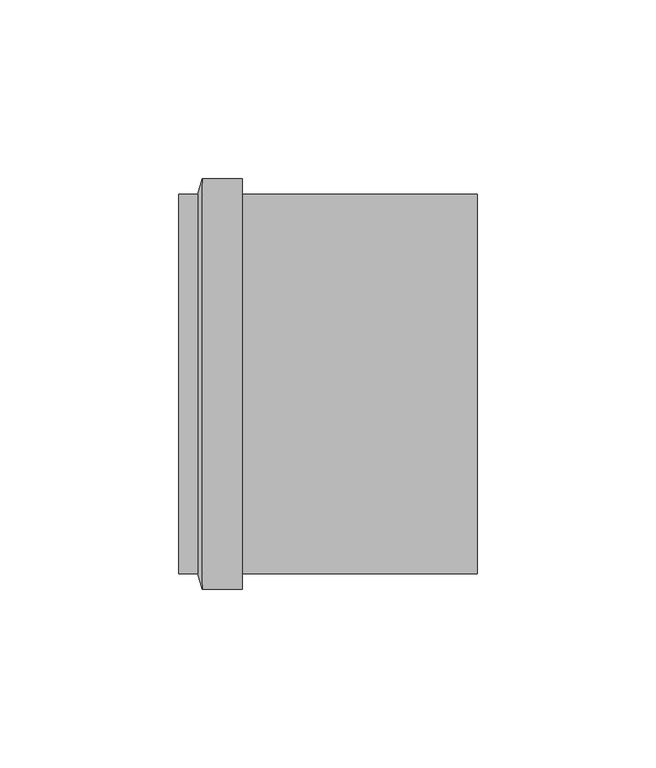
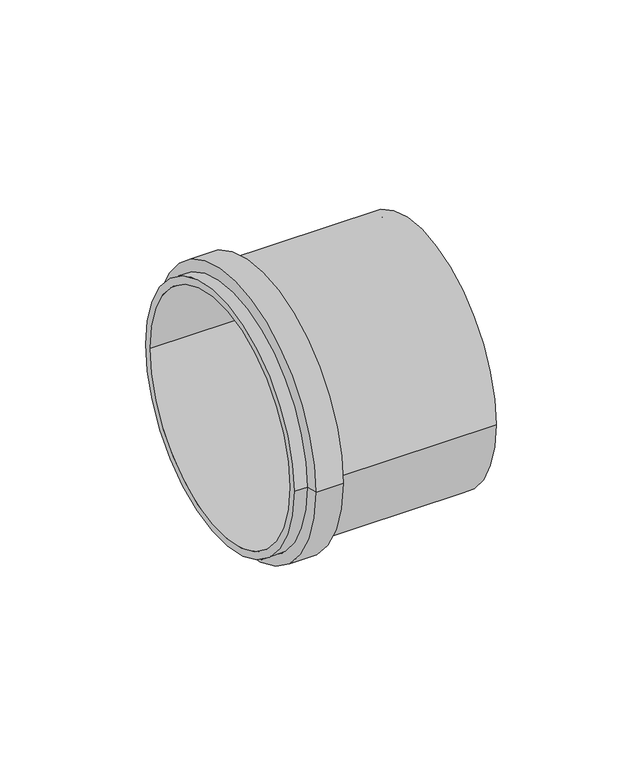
"""IFC4 building model written with IfcOpenShell, lengths in millimetres: pipe fitting geometry, Luva Simples para Conexão - Serie Normal - Esgoto - MEP - Tigre : Luva Simples para Conexão - Serie Normal - Esgoto - MEP - Tigre."""

from ifc_helpers import new_model, si_unit, frame, origin, place, context, project, spatial, polyline, circle_curve, source, transform, mapped, element, save
from ifc_brep_helpers import plane_surface, cylinder_surface, revolved_surface, advanced_brep


def pipe_fitting_c36cd420(model_context):
    return source(origin(), model_context, "Body", "AdvancedBrep", [
        advanced_brep(
        [(17.77, -57.45, 0.0), (17.77, 57.45, 0.0), (17.77, -53.05, 0.0), (17.77, 53.05, 0.0), (6.57, 57.45, 0.0), (6.57, -57.45, 0.0), (83.52, -53.05, 0.0), (83.52, 53.05, 0.0), (83.52, -50.0, 0.0), (83.52, 50.0, 0.0), (0.0, -53.05, 0.0), (0.0, 53.05, 0.0), (0.0, 50.0, 0.0), (0.0, -50.0, 0.0), (5.37, -53.05, 0.0), (5.37, 53.05, 0.0), (50.0, -50.0, 0.0), (50.0, 50.0, 0.0)],
        [
            (0, 1, circle_curve(frame((17.77, 0.0, 0.0), z_axis=(1.0, 0.0, 0.0), x_axis=(0.0, 1.0, 0.0)), 57.45)),
            (1, 0, circle_curve(frame((17.77, 0.0, 0.0), z_axis=(1.0, 0.0, 0.0), x_axis=(0.0, 1.0, 0.0)), 57.45)),
            (2, 3, circle_curve(frame((17.77, 0.0, 0.0), z_axis=(-1.0, 0.0, 0.0), x_axis=(0.0, 1.0, 0.0)), 53.05)),
            (3, 2, circle_curve(frame((17.77, 0.0, 0.0), z_axis=(-1.0, 0.0, 0.0), x_axis=(0.0, 1.0, 0.0)), 53.05)),
            (1, 4),
            (4, 5, circle_curve(frame((6.57, 0.0, 0.0), z_axis=(1.0, 0.0, 0.0), x_axis=(0.0, 1.0, 0.0)), 57.45)),
            (5, 0),
            (5, 4, circle_curve(frame((6.57, 0.0, 0.0), z_axis=(1.0, 0.0, 0.0), x_axis=(0.0, 1.0, 0.0)), 57.45)),
            (6, 7, circle_curve(frame((83.52, 0.0, 0.0), z_axis=(1.0, 0.0, 0.0), x_axis=(0.0, 1.0, 0.0)), 53.05)),
            (7, 6, circle_curve(frame((83.52, 0.0, 0.0), z_axis=(1.0, 0.0, 0.0), x_axis=(0.0, 1.0, 0.0)), 53.05)),
            (8, 9, circle_curve(frame((83.52, 0.0, 0.0), z_axis=(-1.0, 0.0, 0.0), x_axis=(0.0, 1.0, 0.0)), 50.0)),
            (9, 8, circle_curve(frame((83.52, 0.0, 0.0), z_axis=(-1.0, 0.0, 0.0), x_axis=(0.0, 1.0, 0.0)), 50.0)),
            (10, 11, circle_curve(frame((0.0, 0.0, 0.0), z_axis=(-1.0, 0.0, 0.0), x_axis=(0.0, 1.0, 0.0)), 53.05)),
            (11, 10, circle_curve(frame((0.0, 0.0, 0.0), z_axis=(-1.0, 0.0, 0.0), x_axis=(0.0, 1.0, 0.0)), 53.05)),
            (12, 13, circle_curve(frame((0.0, 0.0, 0.0), z_axis=(1.0, 0.0, 0.0), x_axis=(0.0, 1.0, 0.0)), 50.0)),
            (13, 12, circle_curve(frame((0.0, 0.0, 0.0), z_axis=(1.0, 0.0, 0.0), x_axis=(0.0, 1.0, 0.0)), 50.0)),
            (10, 14),
            (14, 15, circle_curve(frame((5.37, 0.0, 0.0), z_axis=(-1.0, 0.0, 0.0), x_axis=(0.0, 1.0, 0.0)), 53.05)),
            (15, 11),
            (15, 14, circle_curve(frame((5.37, 0.0, 0.0), z_axis=(-1.0, 0.0, 0.0), x_axis=(0.0, 1.0, 0.0)), 53.05)),
            (8, 16),
            (16, 13),
            (12, 17),
            (17, 9),
            (15, 4),
            (5, 14),
            (7, 3),
            (2, 6),
        ],
        [
            plane_surface(frame((17.77, 0.0, 0.0), z_axis=(1.0, 0.0, 0.0), x_axis=(0.0, 0.0, 1.0))),
            cylinder_surface(frame((6.57, 0.0, 0.0), z_axis=(-1.0, 0.0, 0.0), x_axis=(0.0, 1.0, 0.0)), 57.45),
            plane_surface(frame((83.52, 0.0, 0.0), z_axis=(1.0, 0.0, 0.0), x_axis=(0.0, 0.0, 1.0))),
            plane_surface(frame((0.0, 0.0, 0.0), z_axis=(-1.0, 0.0, 0.0), x_axis=(0.0, 0.0, 1.0))),
            cylinder_surface(frame((0.0, 0.0, 0.0), z_axis=(-1.0, 0.0, 0.0), x_axis=(0.0, 1.0, 0.0)), 53.05),
            revolved_surface(polyline([(0.0, 50.0, 0.0), (83.52, 50.0, 0.0)]), (0.0, 0.0, 0.0), (-1.0, 0.0, 0.0)),
            revolved_surface(polyline([(5.369999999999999, 53.049999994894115, 0.0), (6.57, 57.45, 0.0)]), (-9.0981818, 0.0, 0.0), (1.0, 0.0, 0.0)),
            cylinder_surface(frame((17.77, 0.0, 0.0), z_axis=(-1.0, 0.0, 0.0), x_axis=(0.0, 1.0, 0.0)), 53.05),
        ],
        [
            (0, [[1, 2], [3, 4]]),
            (1, [[-2, 5, 6, 7]]),
            (1, [[-1, -7, 8, -5]]),
            (2, [[9, 10], [11, 12]]),
            (3, [[13, 14], [15, 16]]),
            (4, [[-13, 17, 18, 19]]),
            (4, [[-14, -19, 20, -17]]),
            (5, [[-11, 21, 22, -15, 23, 24]]),
            (5, [[-12, -24, -23, -16, -22, -21]]),
            (6, [[25, -8, 26, -20]]),
            (6, [[-25, -18, -26, -6]]),
            (7, [[-10, 27, -3, 28]]),
            (7, [[-9, -28, -4, -27]]),
        ],
    ),
    ])


if __name__ == "__main__":
    model = new_model("IFC4")
    model_context = context("Model", 3, world=origin())
    ifc_project = project(units=[si_unit("LENGTHUNIT", "METRE", prefix="MILLI")], contexts=[model_context])
    site = spatial("IfcSite", under=ifc_project)
    building = spatial("IfcBuilding", under=site)
    placement = place(None, origin())
    pipe_fitting_shape = pipe_fitting_c36cd420(model_context)
    element("IfcPipeFitting", 1, ObjectType="Luva Simples para Conexão - Serie Normal - Esgoto - MEP - Tigre : Luva Simples para Conexão - Serie Normal - Esgoto - MEP - Tigre", at=placement, inside=building, context=model_context, shape_type="MappedRepresentation", body=[
        mapped(pipe_fitting_shape, transform((0.0, 0.0, 0.0), x_axis=(1.0, 0.0, 0.0), y_axis=(0.0, 1.0, 0.0), z_axis=(0.0, 0.0, 1.0))),
    ])
    save(model, "model.ifc")
